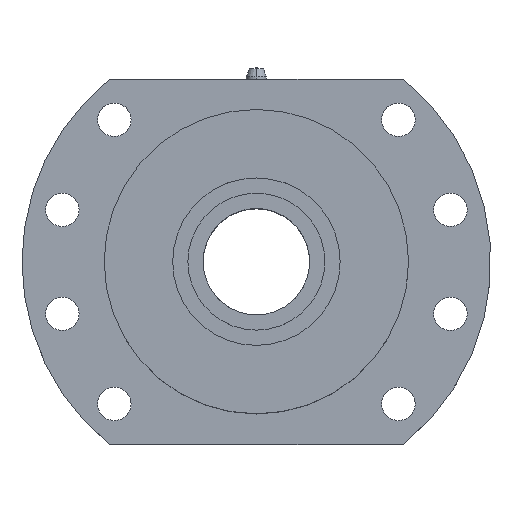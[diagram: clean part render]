
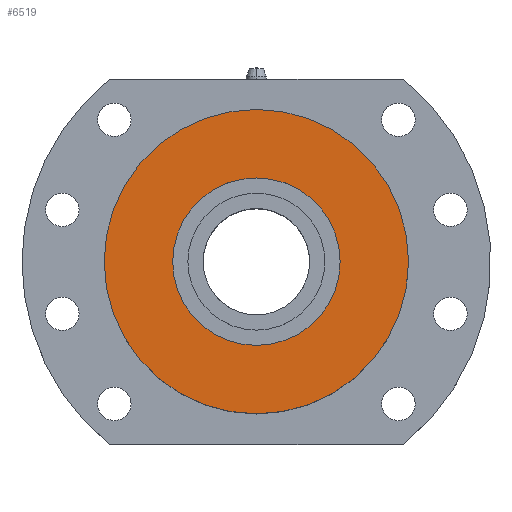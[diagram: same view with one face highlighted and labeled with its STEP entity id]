
A CAD part, top view. The second image highlights one B-rep face of the part: STEP entity #6519.
In plain terms, the highlighted planar face has unit normal (0, 0, 1).
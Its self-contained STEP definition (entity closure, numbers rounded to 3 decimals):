
#534 = VERTEX_POINT ( 'NONE', #13593 ) ;
#548 = ORIENTED_EDGE ( 'NONE', *, *, #4020, .T. ) ;
#766 = EDGE_LOOP ( 'NONE', ( #548, #7361 ) ) ;
#772 = FACE_OUTER_BOUND ( 'NONE', #766, .T. ) ;
#989 = CARTESIAN_POINT ( 'NONE',  ( -27.5, 0., 48. ) ) ;
#990 = CIRCLE ( 'NONE', #7289, 50. ) ;
#1426 = DIRECTION ( 'NONE',  ( 1., 0., 0. ) ) ;
#1632 = EDGE_CURVE ( 'NONE', #10699, #7386, #990, .T. ) ;
#2019 = DIRECTION ( 'NONE',  ( 1., 0., 0. ) ) ;
#2234 = ORIENTED_EDGE ( 'NONE', *, *, #8803, .F. ) ;
#3675 = CIRCLE ( 'NONE', #12378, 27.5 ) ;
#3863 = CARTESIAN_POINT ( 'NONE',  ( 0., 0., 48. ) ) ;
#3933 = VERTEX_POINT ( 'NONE', #989 ) ;
#3990 = CARTESIAN_POINT ( 'NONE',  ( 0., 0., 48. ) ) ;
#4020 = EDGE_CURVE ( 'NONE', #7386, #10699, #13499, .T. ) ;
#4114 = CIRCLE ( 'NONE', #6954, 27.5 ) ;
#5229 = CARTESIAN_POINT ( 'NONE',  ( 50., 0., 48. ) ) ;
#5776 = CARTESIAN_POINT ( 'NONE',  ( 0., 0., 48. ) ) ;
#5820 = DIRECTION ( 'NONE',  ( 1., 0., 0. ) ) ;
#6519 = ADVANCED_FACE ( 'NONE', ( #12211, #772 ), #13188, .T. ) ;
#6738 = AXIS2_PLACEMENT_3D ( 'NONE', #9992, #7842, #6928 ) ;
#6928 = DIRECTION ( 'NONE',  ( 1., 0., 0. ) ) ;
#6954 = AXIS2_PLACEMENT_3D ( 'NONE', #3863, #8882, #8001 ) ;
#7289 = AXIS2_PLACEMENT_3D ( 'NONE', #5776, #8858, #5820 ) ;
#7361 = ORIENTED_EDGE ( 'NONE', *, *, #1632, .T. ) ;
#7386 = VERTEX_POINT ( 'NONE', #10426 ) ;
#7842 = DIRECTION ( 'NONE',  ( 0., 0., 1. ) ) ;
#8001 = DIRECTION ( 'NONE',  ( 1., 0., 0. ) ) ;
#8194 = EDGE_CURVE ( 'NONE', #3933, #534, #4114, .T. ) ;
#8803 = EDGE_CURVE ( 'NONE', #534, #3933, #3675, .T. ) ;
#8858 = DIRECTION ( 'NONE',  ( 0., 0., 1. ) ) ;
#8882 = DIRECTION ( 'NONE',  ( 0., 0., 1. ) ) ;
#9704 = EDGE_LOOP ( 'NONE', ( #2234, #9812 ) ) ;
#9812 = ORIENTED_EDGE ( 'NONE', *, *, #8194, .F. ) ;
#9992 = CARTESIAN_POINT ( 'NONE',  ( 0., 0., 48. ) ) ;
#10177 = AXIS2_PLACEMENT_3D ( 'NONE', #12732, #11778, #1426 ) ;
#10426 = CARTESIAN_POINT ( 'NONE',  ( -50., 0., 48. ) ) ;
#10699 = VERTEX_POINT ( 'NONE', #5229 ) ;
#11778 = DIRECTION ( 'NONE',  ( 0., 0., 1. ) ) ;
#12211 = FACE_BOUND ( 'NONE', #9704, .T. ) ;
#12378 = AXIS2_PLACEMENT_3D ( 'NONE', #3990, #13297, #2019 ) ;
#12732 = CARTESIAN_POINT ( 'NONE',  ( 0., 0., 48. ) ) ;
#13188 = PLANE ( 'NONE',  #6738 ) ;
#13297 = DIRECTION ( 'NONE',  ( 0., 0., 1. ) ) ;
#13499 = CIRCLE ( 'NONE', #10177, 50. ) ;
#13593 = CARTESIAN_POINT ( 'NONE',  ( 27.5, 0., 48. ) ) ;
